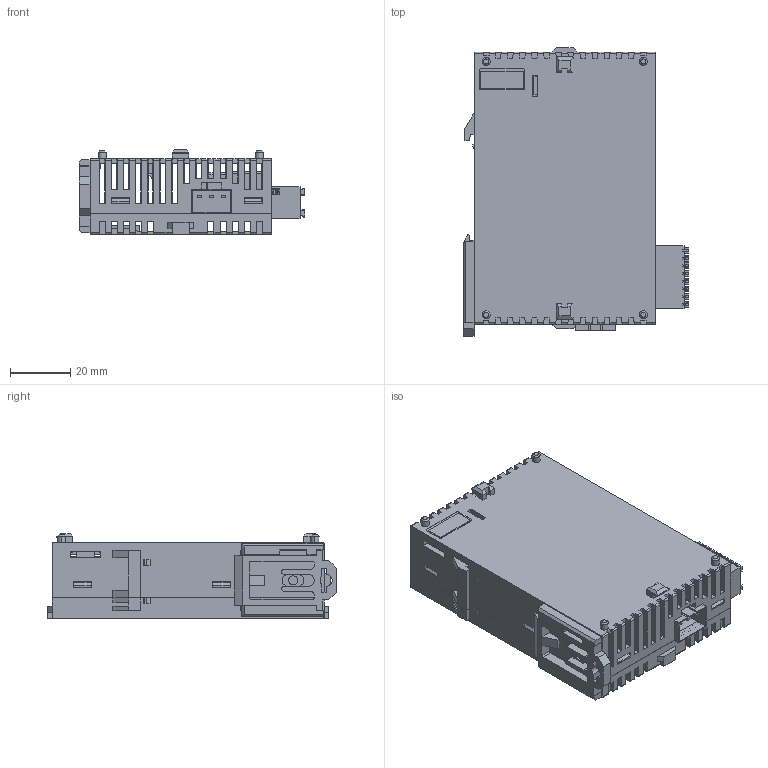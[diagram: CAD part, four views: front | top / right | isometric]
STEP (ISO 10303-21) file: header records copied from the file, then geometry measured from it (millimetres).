
FILE_DESCRIPTION (( 'STEP AP214' ), '1' );
FILE_NAME ('FP-I4C.STEP', '2020-06-16T09:48:04', ( '' ), ( '' ), 'SwSTEP 2.0', 'SolidWorks 2018', '' );
FILE_SCHEMA (( 'AUTOMOTIVE_DESIGN' ));
Length unit declared in the file: millimetre
Products named in the file (16): SChnapper_Hutschiene; Ethernet_Port; USB_Port; dfmc_0.5-8-st-2.54.stp; Power; Platine; pxc_1844633_06_DFMC-0-5-8-ST-2-54_3D; case2_190408_fp-i4c_angepasst_02_Mit_Beschr; FP-I4C; case1_181210_fp-i4c_1_Mit_Beschr; Sticker_groß; Schnapper; Sticker; LED; pxc_1844633_06_DFMC-0-5-8-ST-2-54_3D.stp; LED_Power
Assembly tree (32 placements, depth 4):
  FP-I4C
    case2_190408_fp-i4c_angepasst_02_Mit_Beschr
    case1_181210_fp-i4c_1_Mit_Beschr
    LED_Power
    LED  x15
    pxc_1844633_06_DFMC-0-5-8-ST-2-54_3D
      pxc_1844633_06_DFMC-0-5-8-ST-2-54_3D.stp
        dfmc_0.5-8-st-2.54.stp
    Platine
    Sticker
    Schnapper  x2
    Sticker_groß
    SChnapper_Hutschiene
    Power
    Ethernet_Port  x2
    USB_Port  x2
Bounding box: 74.45 x 95.5 x 28.05 mm (x, y, z)
Volume: 46362.3 mm3; surface area: 64000.9 mm2
Topology: 30 solids, 30 shells, 7585 faces, 20964 edges, 13681 vertices
Faces by surface type: plane 4039, bspline 2432, cylinder 865, sphere 95, torus 80, cone 74
Entity records: 388836 total; most frequent: CARTESIAN_POINT 169770, ORIENTED_EDGE 40442, DIRECTION 25798, EDGE_CURVE 20221, LINE 13268, VECTOR 13268, VERTEX_POINT 13225, EDGE_LOOP 7768
